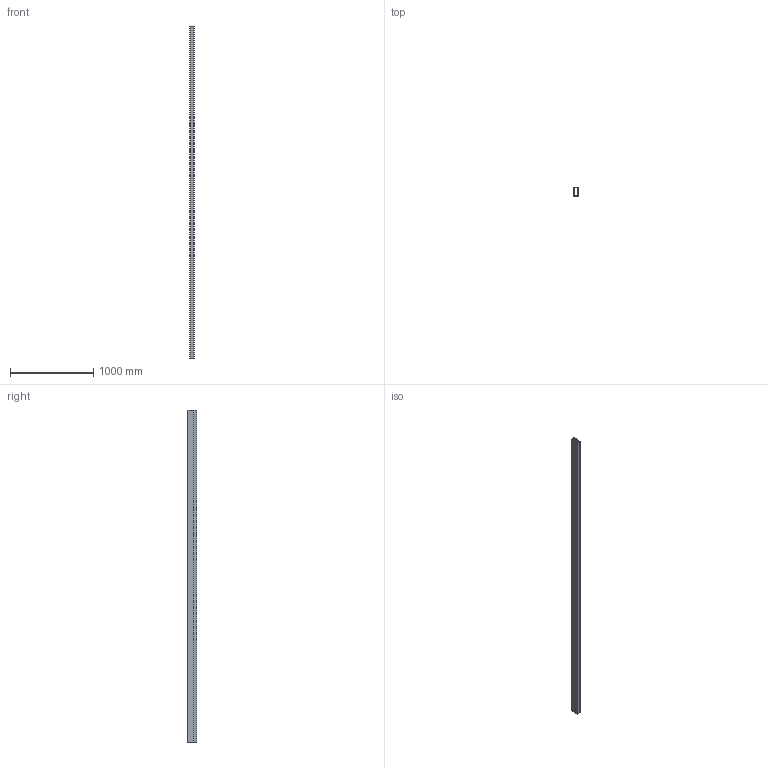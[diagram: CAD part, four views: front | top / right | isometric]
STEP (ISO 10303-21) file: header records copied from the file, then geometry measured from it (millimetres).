
FILE_DESCRIPTION( ( 'STEP AP203' ), '1' );
FILE_NAME( ' ', ' ', ( ' ' ), ( ' ' ), 'XStep 1.0', ' ', ' ' );
FILE_SCHEMA( ( 'CONFIG_CONTROL_DESIGN' ) );
Length unit declared in the file: millimetre
Products named in the file (1): 1
Bounding box: 50 x 108.5 x 3994 mm (x, y, z)
Volume: 2757401.3 mm3; surface area: 2653879.5 mm2
Topology: 1 solids, 1 shells, 94 faces, 276 edges, 184 vertices
Faces by surface type: plane 48, cylinder 46
Entity records: 3200 total; most frequent: DIRECTION 558, CARTESIAN_POINT 555, ORIENTED_EDGE 552, EDGE_CURVE 276, AXIS2_PLACEMENT_3D 187, VERTEX_POINT 184, LINE 184, VECTOR 184
